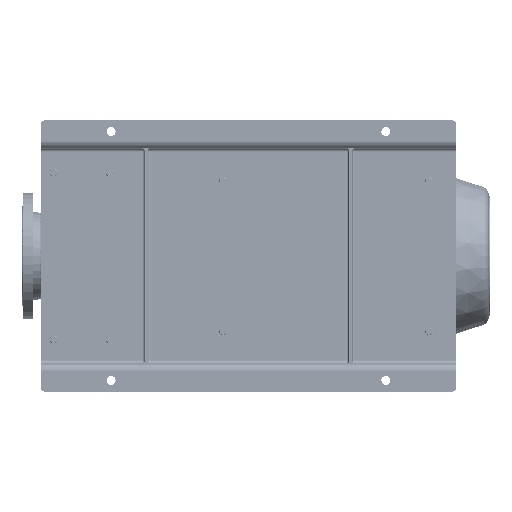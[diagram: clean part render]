
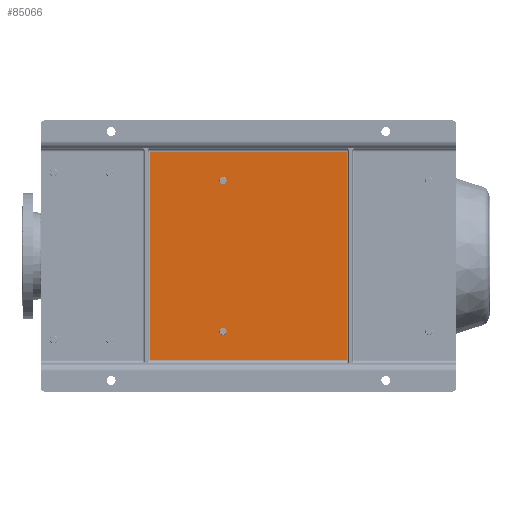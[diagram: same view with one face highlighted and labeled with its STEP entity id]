
A CAD part, front view. The second image highlights one B-rep face of the part: STEP entity #85066.
In plain terms, the highlighted planar face has unit normal (0, -1, 0).
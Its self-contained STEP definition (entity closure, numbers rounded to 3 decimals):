
#517 = CARTESIAN_POINT ( 'NONE',  ( 85., 90., -825. ) ) ;
#1620 = LINE ( 'NONE', #122427, #13079 ) ;
#1948 = CIRCLE ( 'NONE', #155571, 10. ) ;
#2915 = ORIENTED_EDGE ( 'NONE', *, *, #62222, .T. ) ;
#4413 = CARTESIAN_POINT ( 'NONE',  ( 162., 90., -491. ) ) ;
#8353 = EDGE_CURVE ( 'NONE', #85504, #67586, #103841, .T. ) ;
#13079 = VECTOR ( 'NONE', #19225, 1000. ) ;
#19225 = DIRECTION ( 'NONE',  ( 0., 0., 1. ) ) ;
#23858 = DIRECTION ( 'NONE',  ( 0., 0., 1. ) ) ;
#28981 = AXIS2_PLACEMENT_3D ( 'NONE', #176281, #85908, #164434 ) ;
#29860 = AXIS2_PLACEMENT_3D ( 'NONE', #150012, #31167, #59689 ) ;
#31167 = DIRECTION ( 'NONE',  ( 0., 1., 0. ) ) ;
#34245 = AXIS2_PLACEMENT_3D ( 'NONE', #4413, #75232, #120385 ) ;
#37283 = VECTOR ( 'NONE', #83162, 1000. ) ;
#37614 = DIRECTION ( 'NONE',  ( 0., 1., 0. ) ) ;
#43501 = ORIENTED_EDGE ( 'NONE', *, *, #8353, .T. ) ;
#44825 = VECTOR ( 'NONE', #74367, 1000. ) ;
#51568 = ORIENTED_EDGE ( 'NONE', *, *, #115340, .T. ) ;
#51831 = VECTOR ( 'NONE', #60070, 1000. ) ;
#52241 = EDGE_CURVE ( 'NONE', #178262, #85504, #157776, .T. ) ;
#53124 = CIRCLE ( 'NONE', #34245, 10. ) ;
#55136 = VERTEX_POINT ( 'NONE', #87142 ) ;
#56612 = CARTESIAN_POINT ( 'NONE',  ( 645., 90., -295. ) ) ;
#59689 = DIRECTION ( 'NONE',  ( 0., 0., -1. ) ) ;
#60070 = DIRECTION ( 'NONE',  ( -1., 0., 0. ) ) ;
#61417 = EDGE_LOOP ( 'NONE', ( #84234, #129372 ) ) ;
#62222 = EDGE_CURVE ( 'NONE', #107613, #178262, #87621, .T. ) ;
#65186 = CARTESIAN_POINT ( 'NONE',  ( 568., 90., -491. ) ) ;
#67586 = VERTEX_POINT ( 'NONE', #93155 ) ;
#72335 = EDGE_CURVE ( 'NONE', #120222, #55136, #53124, .T. ) ;
#73781 = CIRCLE ( 'NONE', #29860, 10. ) ;
#73808 = EDGE_CURVE ( 'NONE', #171901, #185698, #166867, .T. ) ;
#74367 = DIRECTION ( 'NONE',  ( 1., 0., 0. ) ) ;
#75232 = DIRECTION ( 'NONE',  ( 0., 1., 0. ) ) ;
#80442 = FACE_BOUND ( 'NONE', #61417, .T. ) ;
#82387 = PLANE ( 'NONE',  #177933 ) ;
#83162 = DIRECTION ( 'NONE',  ( 0., 0., -1. ) ) ;
#84234 = ORIENTED_EDGE ( 'NONE', *, *, #72335, .T. ) ;
#84953 = ORIENTED_EDGE ( 'NONE', *, *, #52241, .T. ) ;
#85066 = ADVANCED_FACE ( 'NONE', ( #172774, #80442, #154076 ), #82387, .T. ) ;
#85504 = VERTEX_POINT ( 'NONE', #517 ) ;
#85908 = DIRECTION ( 'NONE',  ( 0., 1., 0. ) ) ;
#87142 = CARTESIAN_POINT ( 'NONE',  ( 162., 90., -501. ) ) ;
#87621 = LINE ( 'NONE', #118077, #51831 ) ;
#89113 = CARTESIAN_POINT ( 'NONE',  ( 568., 90., -481. ) ) ;
#93155 = CARTESIAN_POINT ( 'NONE',  ( 645., 90., -825. ) ) ;
#96162 = CARTESIAN_POINT ( 'NONE',  ( 75., 90., -1120. ) ) ;
#96726 = EDGE_LOOP ( 'NONE', ( #84953, #43501, #51568, #2915 ) ) ;
#100531 = EDGE_CURVE ( 'NONE', #185698, #171901, #1948, .T. ) ;
#103841 = LINE ( 'NONE', #177528, #44825 ) ;
#106575 = ORIENTED_EDGE ( 'NONE', *, *, #100531, .T. ) ;
#107613 = VERTEX_POINT ( 'NONE', #56612 ) ;
#112433 = CARTESIAN_POINT ( 'NONE',  ( 85., 90., -295. ) ) ;
#115115 = EDGE_LOOP ( 'NONE', ( #106575, #178897 ) ) ;
#115340 = EDGE_CURVE ( 'NONE', #67586, #107613, #1620, .T. ) ;
#118077 = CARTESIAN_POINT ( 'NONE',  ( 75., 90., -295. ) ) ;
#120222 = VERTEX_POINT ( 'NONE', #153515 ) ;
#120385 = DIRECTION ( 'NONE',  ( 0., 0., -1. ) ) ;
#122427 = CARTESIAN_POINT ( 'NONE',  ( 645., 90., -290. ) ) ;
#123092 = EDGE_CURVE ( 'NONE', #55136, #120222, #73781, .T. ) ;
#126568 = DIRECTION ( 'NONE',  ( 0., -1., 0. ) ) ;
#129372 = ORIENTED_EDGE ( 'NONE', *, *, #123092, .T. ) ;
#144974 = CARTESIAN_POINT ( 'NONE',  ( 85., 90., -830. ) ) ;
#148769 = CARTESIAN_POINT ( 'NONE',  ( 568., 90., -501. ) ) ;
#150012 = CARTESIAN_POINT ( 'NONE',  ( 162., 90., -491. ) ) ;
#153515 = CARTESIAN_POINT ( 'NONE',  ( 162., 90., -481. ) ) ;
#154076 = FACE_OUTER_BOUND ( 'NONE', #96726, .T. ) ;
#155571 = AXIS2_PLACEMENT_3D ( 'NONE', #65186, #37614, #23858 ) ;
#157776 = LINE ( 'NONE', #144974, #37283 ) ;
#164434 = DIRECTION ( 'NONE',  ( 0., 0., 1. ) ) ;
#166867 = CIRCLE ( 'NONE', #28981, 10. ) ;
#168890 = DIRECTION ( 'NONE',  ( 0., 0., -1. ) ) ;
#171901 = VERTEX_POINT ( 'NONE', #148769 ) ;
#172774 = FACE_BOUND ( 'NONE', #115115, .T. ) ;
#176281 = CARTESIAN_POINT ( 'NONE',  ( 568., 90., -491. ) ) ;
#177528 = CARTESIAN_POINT ( 'NONE',  ( 75., 90., -825. ) ) ;
#177933 = AXIS2_PLACEMENT_3D ( 'NONE', #96162, #126568, #168890 ) ;
#178262 = VERTEX_POINT ( 'NONE', #112433 ) ;
#178897 = ORIENTED_EDGE ( 'NONE', *, *, #73808, .T. ) ;
#185698 = VERTEX_POINT ( 'NONE', #89113 ) ;
